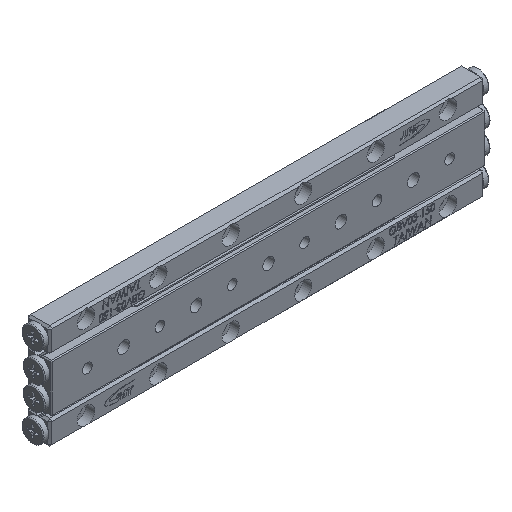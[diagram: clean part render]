
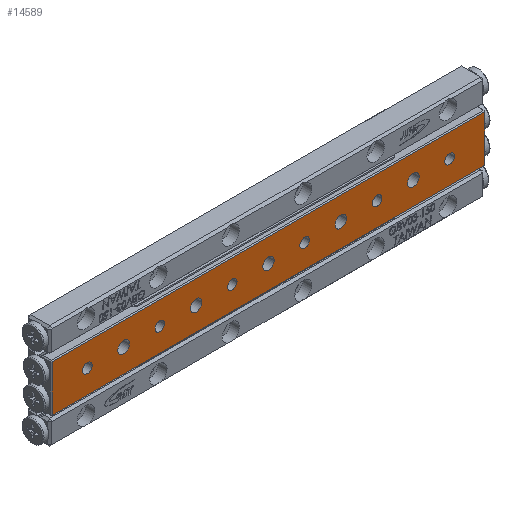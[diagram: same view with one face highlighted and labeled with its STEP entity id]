
A CAD part, isometric view. The second image highlights one B-rep face of the part: STEP entity #14589.
In plain terms, the highlighted planar face has unit normal (0, -1, 0).
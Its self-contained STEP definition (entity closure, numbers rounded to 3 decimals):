
#215 = ORIENTED_EDGE ( 'NONE', *, *, #963, .T. ) ;
#669 = EDGE_LOOP ( 'NONE', ( #24429 ) ) ;
#896 = EDGE_LOOP ( 'NONE', ( #26242 ) ) ;
#963 = EDGE_CURVE ( 'NONE', #19592, #24431, #21591, .T. ) ;
#1011 = DIRECTION ( 'NONE',  ( 0., 1., 0. ) ) ;
#1300 = DIRECTION ( 'NONE',  ( 0., 1., 0. ) ) ;
#1331 = ORIENTED_EDGE ( 'NONE', *, *, #28757, .T. ) ;
#1338 = FACE_BOUND ( 'NONE', #15788, .T. ) ;
#1671 = CARTESIAN_POINT ( 'NONE',  ( 74.7, 0., -8.3 ) ) ;
#1694 = EDGE_CURVE ( 'NONE', #31733, #31733, #10466, .T. ) ;
#1814 = FACE_BOUND ( 'NONE', #30588, .T. ) ;
#1970 = FACE_OUTER_BOUND ( 'NONE', #12097, .T. ) ;
#2105 = DIRECTION ( 'NONE',  ( -1., 0., 0. ) ) ;
#2127 = CARTESIAN_POINT ( 'NONE',  ( 0., 0., 2. ) ) ;
#2250 = ORIENTED_EDGE ( 'NONE', *, *, #24274, .T. ) ;
#2366 = VERTEX_POINT ( 'NONE', #11527 ) ;
#2534 = DIRECTION ( 'NONE',  ( 0., 0., 1. ) ) ;
#2843 = DIRECTION ( 'NONE',  ( 0., 1., 0. ) ) ;
#3543 = DIRECTION ( 'NONE',  ( 0., 1., 0. ) ) ;
#3694 = ORIENTED_EDGE ( 'NONE', *, *, #19778, .T. ) ;
#3837 = CARTESIAN_POINT ( 'NONE',  ( 62.5, 0., 1.65 ) ) ;
#3924 = FACE_BOUND ( 'NONE', #26203, .T. ) ;
#4012 = AXIS2_PLACEMENT_3D ( 'NONE', #4216, #21992, #14392 ) ;
#4079 = DIRECTION ( 'NONE',  ( 0., 1., 0. ) ) ;
#4216 = CARTESIAN_POINT ( 'NONE',  ( -50., 0., 0. ) ) ;
#4337 = DIRECTION ( 'NONE',  ( 0., 0., 1. ) ) ;
#4399 = FACE_BOUND ( 'NONE', #26008, .T. ) ;
#4758 = VECTOR ( 'NONE', #16103, 1000. ) ;
#4802 = VERTEX_POINT ( 'NONE', #27296 ) ;
#4888 = CIRCLE ( 'NONE', #21441, 1.65 ) ;
#4889 = ORIENTED_EDGE ( 'NONE', *, *, #5822, .T. ) ;
#4962 = CARTESIAN_POINT ( 'NONE',  ( 25., 0., 2. ) ) ;
#5822 = EDGE_CURVE ( 'NONE', #9710, #9710, #15487, .T. ) ;
#6218 = CARTESIAN_POINT ( 'NONE',  ( -74.7, 0., -8.3 ) ) ;
#6232 = EDGE_CURVE ( 'NONE', #20395, #20395, #28931, .T. ) ;
#6295 = EDGE_LOOP ( 'NONE', ( #20852 ) ) ;
#6402 = VERTEX_POINT ( 'NONE', #3837 ) ;
#6457 = LINE ( 'NONE', #26061, #21500 ) ;
#6489 = DIRECTION ( 'NONE',  ( 0., 1., 0. ) ) ;
#6926 = EDGE_LOOP ( 'NONE', ( #1331 ) ) ;
#7534 = CARTESIAN_POINT ( 'NONE',  ( 50., 0., 2. ) ) ;
#7821 = EDGE_LOOP ( 'NONE', ( #11484 ) ) ;
#7856 = EDGE_CURVE ( 'NONE', #8073, #8073, #31961, .T. ) ;
#8073 = VERTEX_POINT ( 'NONE', #27833 ) ;
#8708 = CARTESIAN_POINT ( 'NONE',  ( 62.5, 0., 0. ) ) ;
#8846 = ORIENTED_EDGE ( 'NONE', *, *, #16645, .T. ) ;
#8864 = CARTESIAN_POINT ( 'NONE',  ( -37.5, 0., 0. ) ) ;
#8900 = DIRECTION ( 'NONE',  ( 0., 0., 1. ) ) ;
#9150 = CIRCLE ( 'NONE', #4012, 2. ) ;
#9405 = PLANE ( 'NONE',  #22207 ) ;
#9710 = VERTEX_POINT ( 'NONE', #2127 ) ;
#10220 = CIRCLE ( 'NONE', #24200, 2. ) ;
#10466 = CIRCLE ( 'NONE', #30616, 1.65 ) ;
#10705 = ORIENTED_EDGE ( 'NONE', *, *, #6232, .T. ) ;
#11484 = ORIENTED_EDGE ( 'NONE', *, *, #1694, .T. ) ;
#11495 = CARTESIAN_POINT ( 'NONE',  ( 25., 0., 0. ) ) ;
#11527 = CARTESIAN_POINT ( 'NONE',  ( 74.7, 0., 8. ) ) ;
#11640 = DIRECTION ( 'NONE',  ( 0., 0., 1. ) ) ;
#11672 = FACE_BOUND ( 'NONE', #6926, .T. ) ;
#11845 = DIRECTION ( 'NONE',  ( 0., 0., 1. ) ) ;
#12097 = EDGE_LOOP ( 'NONE', ( #215, #14781, #17943, #8846 ) ) ;
#12288 = CIRCLE ( 'NONE', #16422, 2. ) ;
#12571 = EDGE_LOOP ( 'NONE', ( #23187 ) ) ;
#12931 = CARTESIAN_POINT ( 'NONE',  ( 37.5, 0., 1.65 ) ) ;
#13216 = CARTESIAN_POINT ( 'NONE',  ( -37.5, 0., 1.65 ) ) ;
#13343 = VECTOR ( 'NONE', #11845, 1000. ) ;
#13596 = CARTESIAN_POINT ( 'NONE',  ( -62.5, 0., 0. ) ) ;
#13622 = FACE_BOUND ( 'NONE', #7821, .T. ) ;
#13695 = AXIS2_PLACEMENT_3D ( 'NONE', #17567, #20479, #30348 ) ;
#13902 = CIRCLE ( 'NONE', #17526, 2. ) ;
#13946 = DIRECTION ( 'NONE',  ( 0., 0., 1. ) ) ;
#13952 = CIRCLE ( 'NONE', #15505, 1.65 ) ;
#14108 = FACE_BOUND ( 'NONE', #30074, .T. ) ;
#14384 = AXIS2_PLACEMENT_3D ( 'NONE', #13596, #31393, #11640 ) ;
#14392 = DIRECTION ( 'NONE',  ( 0., 0., 1. ) ) ;
#14529 = VERTEX_POINT ( 'NONE', #4962 ) ;
#14589 = ADVANCED_FACE ( 'NONE', ( #1970, #29003, #4399, #14108, #3924, #1814, #31114, #21396, #11672, #13622, #1338, #23834 ), #9405, .F. ) ;
#14781 = ORIENTED_EDGE ( 'NONE', *, *, #26281, .T. ) ;
#15487 = CIRCLE ( 'NONE', #27974, 2. ) ;
#15505 = AXIS2_PLACEMENT_3D ( 'NONE', #8864, #16312, #4337 ) ;
#15649 = ORIENTED_EDGE ( 'NONE', *, *, #25893, .T. ) ;
#15788 = EDGE_LOOP ( 'NONE', ( #10705 ) ) ;
#15972 = VERTEX_POINT ( 'NONE', #21158 ) ;
#16103 = DIRECTION ( 'NONE',  ( 0., 0., -1. ) ) ;
#16312 = DIRECTION ( 'NONE',  ( 0., 1., 0. ) ) ;
#16377 = DIRECTION ( 'NONE',  ( 0., 0., 1. ) ) ;
#16422 = AXIS2_PLACEMENT_3D ( 'NONE', #11495, #18627, #8900 ) ;
#16645 = EDGE_CURVE ( 'NONE', #2366, #19592, #6457, .T. ) ;
#17526 = AXIS2_PLACEMENT_3D ( 'NONE', #24716, #22759, #2534 ) ;
#17567 = CARTESIAN_POINT ( 'NONE',  ( -12.5, 0., 0. ) ) ;
#17903 = CARTESIAN_POINT ( 'NONE',  ( -74.7, 0., -8. ) ) ;
#17943 = ORIENTED_EDGE ( 'NONE', *, *, #21580, .T. ) ;
#18084 = CARTESIAN_POINT ( 'NONE',  ( -12.5, 0., 1.65 ) ) ;
#18503 = DIRECTION ( 'NONE',  ( 1., 0., 0. ) ) ;
#18572 = EDGE_CURVE ( 'NONE', #4802, #4802, #9150, .T. ) ;
#18627 = DIRECTION ( 'NONE',  ( 0., 1., 0. ) ) ;
#19572 = CARTESIAN_POINT ( 'NONE',  ( 74.7, 0., -8. ) ) ;
#19592 = VERTEX_POINT ( 'NONE', #26899 ) ;
#19778 = EDGE_CURVE ( 'NONE', #14529, #14529, #12288, .T. ) ;
#20395 = VERTEX_POINT ( 'NONE', #12931 ) ;
#20479 = DIRECTION ( 'NONE',  ( 0., 1., 0. ) ) ;
#20852 = ORIENTED_EDGE ( 'NONE', *, *, #30447, .T. ) ;
#21158 = CARTESIAN_POINT ( 'NONE',  ( -25., 0., 2. ) ) ;
#21244 = CARTESIAN_POINT ( 'NONE',  ( -75., 0., -8.3 ) ) ;
#21396 = FACE_BOUND ( 'NONE', #12571, .T. ) ;
#21441 = AXIS2_PLACEMENT_3D ( 'NONE', #8708, #3543, #23296 ) ;
#21500 = VECTOR ( 'NONE', #2105, 1000. ) ;
#21580 = EDGE_CURVE ( 'NONE', #30352, #2366, #21881, .T. ) ;
#21591 = LINE ( 'NONE', #6218, #4758 ) ;
#21803 = DIRECTION ( 'NONE',  ( 0., 0., 1. ) ) ;
#21881 = LINE ( 'NONE', #1671, #13343 ) ;
#21992 = DIRECTION ( 'NONE',  ( 0., 1., 0. ) ) ;
#22207 = AXIS2_PLACEMENT_3D ( 'NONE', #21244, #4079, #13946 ) ;
#22759 = DIRECTION ( 'NONE',  ( 0., 1., 0. ) ) ;
#23111 = EDGE_CURVE ( 'NONE', #29725, #29725, #13902, .T. ) ;
#23187 = ORIENTED_EDGE ( 'NONE', *, *, #7856, .T. ) ;
#23214 = LINE ( 'NONE', #23383, #23526 ) ;
#23296 = DIRECTION ( 'NONE',  ( 0., 0., 1. ) ) ;
#23383 = CARTESIAN_POINT ( 'NONE',  ( -75., 0., -8. ) ) ;
#23526 = VECTOR ( 'NONE', #18503, 1000. ) ;
#23834 = FACE_BOUND ( 'NONE', #6295, .T. ) ;
#24200 = AXIS2_PLACEMENT_3D ( 'NONE', #28192, #1011, #25767 ) ;
#24274 = EDGE_CURVE ( 'NONE', #28123, #28123, #13952, .T. ) ;
#24429 = ORIENTED_EDGE ( 'NONE', *, *, #18572, .T. ) ;
#24431 = VERTEX_POINT ( 'NONE', #17903 ) ;
#24716 = CARTESIAN_POINT ( 'NONE',  ( 50., 0., 0. ) ) ;
#25029 = CARTESIAN_POINT ( 'NONE',  ( 37.5, 0., 0. ) ) ;
#25767 = DIRECTION ( 'NONE',  ( 0., 0., 1. ) ) ;
#25859 = VERTEX_POINT ( 'NONE', #18084 ) ;
#25893 = EDGE_CURVE ( 'NONE', #15972, #15972, #10220, .T. ) ;
#26008 = EDGE_LOOP ( 'NONE', ( #3694 ) ) ;
#26061 = CARTESIAN_POINT ( 'NONE',  ( -75., 0., 8. ) ) ;
#26203 = EDGE_LOOP ( 'NONE', ( #15649 ) ) ;
#26242 = ORIENTED_EDGE ( 'NONE', *, *, #23111, .T. ) ;
#26281 = EDGE_CURVE ( 'NONE', #24431, #30352, #23214, .T. ) ;
#26899 = CARTESIAN_POINT ( 'NONE',  ( -74.7, 0., 8. ) ) ;
#27029 = CARTESIAN_POINT ( 'NONE',  ( 12.5, 0., 1.65 ) ) ;
#27296 = CARTESIAN_POINT ( 'NONE',  ( -50., 0., 2. ) ) ;
#27372 = AXIS2_PLACEMENT_3D ( 'NONE', #25029, #2843, #21803 ) ;
#27650 = CIRCLE ( 'NONE', #13695, 1.65 ) ;
#27833 = CARTESIAN_POINT ( 'NONE',  ( -62.5, 0., 1.65 ) ) ;
#27974 = AXIS2_PLACEMENT_3D ( 'NONE', #31116, #6489, #16377 ) ;
#28123 = VERTEX_POINT ( 'NONE', #13216 ) ;
#28168 = CARTESIAN_POINT ( 'NONE',  ( 12.5, 0., 0. ) ) ;
#28192 = CARTESIAN_POINT ( 'NONE',  ( -25., 0., 0. ) ) ;
#28757 = EDGE_CURVE ( 'NONE', #25859, #25859, #27650, .T. ) ;
#28796 = DIRECTION ( 'NONE',  ( 0., 0., 1. ) ) ;
#28931 = CIRCLE ( 'NONE', #27372, 1.65 ) ;
#29003 = FACE_BOUND ( 'NONE', #896, .T. ) ;
#29725 = VERTEX_POINT ( 'NONE', #7534 ) ;
#30074 = EDGE_LOOP ( 'NONE', ( #4889 ) ) ;
#30348 = DIRECTION ( 'NONE',  ( 0., 0., 1. ) ) ;
#30352 = VERTEX_POINT ( 'NONE', #19572 ) ;
#30447 = EDGE_CURVE ( 'NONE', #6402, #6402, #4888, .T. ) ;
#30588 = EDGE_LOOP ( 'NONE', ( #2250 ) ) ;
#30616 = AXIS2_PLACEMENT_3D ( 'NONE', #28168, #1300, #28796 ) ;
#31114 = FACE_BOUND ( 'NONE', #669, .T. ) ;
#31116 = CARTESIAN_POINT ( 'NONE',  ( 0., 0., 0. ) ) ;
#31393 = DIRECTION ( 'NONE',  ( 0., 1., 0. ) ) ;
#31733 = VERTEX_POINT ( 'NONE', #27029 ) ;
#31961 = CIRCLE ( 'NONE', #14384, 1.65 ) ;
